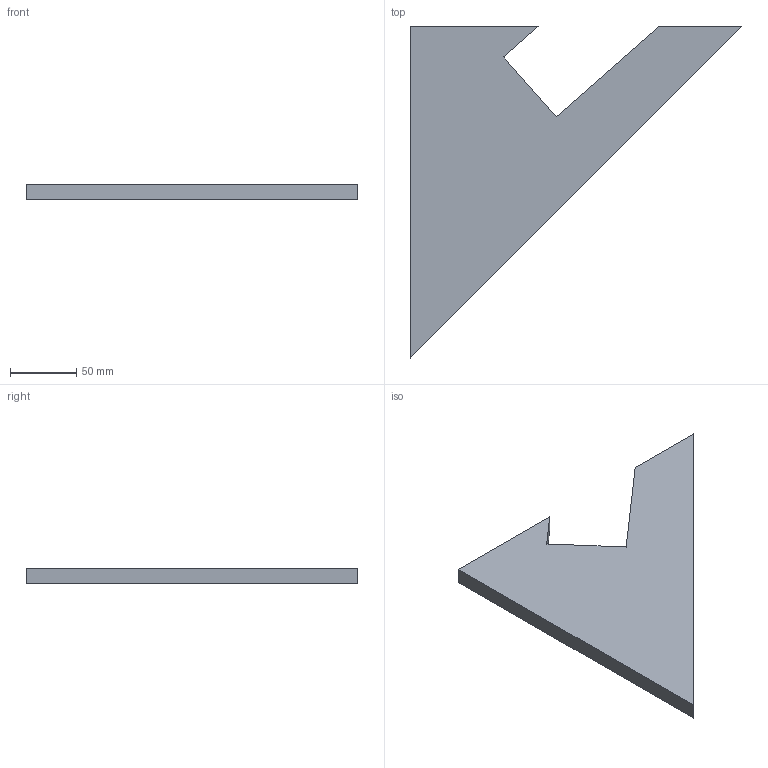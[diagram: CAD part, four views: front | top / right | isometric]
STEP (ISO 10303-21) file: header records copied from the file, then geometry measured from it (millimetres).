
FILE_DESCRIPTION(('Open CASCADE Model'),'2;1');
FILE_NAME('Open CASCADE Shape Model','2026-10-15T15:10:04',('Author'),( 'Open CASCADE'),'Open CASCADE STEP processor 8.0','Open CASCADE 8.0' ,'Unknown');
FILE_SCHEMA(('AUTOMOTIVE_DESIGN { 1 0 10303 214 1 1 1 1 }'));
Length unit declared in the file: millimetre
Products named in the file (1): U02_CARTELA_KNE--1_0_P05 60
Bounding box: 250 x 250 x 12 mm (x, y, z)
Volume: 324894.7 mm3; surface area: 65689.8 mm2
Topology: 1 solids, 1 shells, 9 faces, 21 edges, 14 vertices
Faces by surface type: plane 9
Entity records: 522 total; most frequent: CARTESIAN_POINT 103, DIRECTION 67, LINE 47, VECTOR 47, ORIENTED_EDGE 42, PCURVE 42, DEFINITIONAL_REPRESENTATION 42, EDGE_CURVE 21
